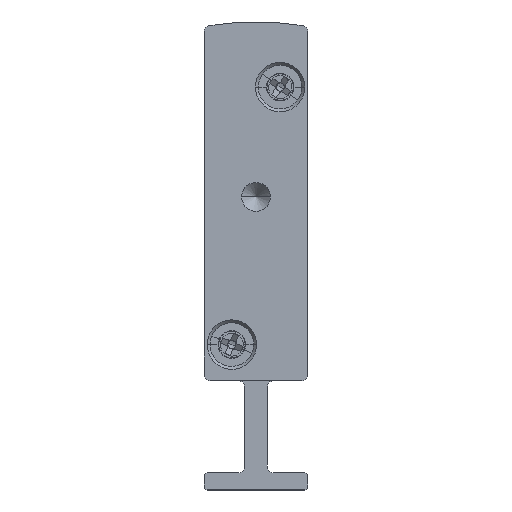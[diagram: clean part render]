
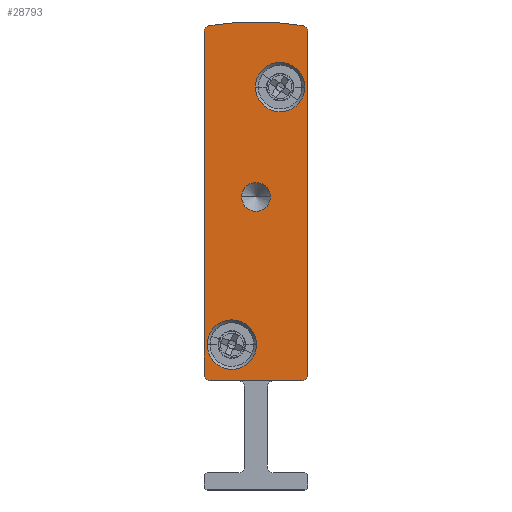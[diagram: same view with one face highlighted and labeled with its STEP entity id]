
A CAD part, front view. The second image highlights one B-rep face of the part: STEP entity #28793.
In plain terms, the highlighted planar face has unit normal (0, -1, 0).
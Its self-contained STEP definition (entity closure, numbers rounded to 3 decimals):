
#169 = EDGE_CURVE ( 'NONE', #326, #7620, #2238, .T. ) ;
#273 = CARTESIAN_POINT ( 'NONE',  ( 4.5, -2.5, 25.5 ) ) ;
#326 = VERTEX_POINT ( 'NONE', #19934 ) ;
#706 = EDGE_LOOP ( 'NONE', ( #27375, #29452 ) ) ;
#746 = CARTESIAN_POINT ( 'NONE',  ( 4.5, -2.5, 17.092 ) ) ;
#877 = DIRECTION ( 'NONE',  ( 0., -1., 0. ) ) ;
#1013 = ORIENTED_EDGE ( 'NONE', *, *, #18039, .F. ) ;
#1086 = EDGE_LOOP ( 'NONE', ( #25473, #30146 ) ) ;
#1340 = CARTESIAN_POINT ( 'NONE',  ( 8.5, -2.5, 9.5 ) ) ;
#2017 = CARTESIAN_POINT ( 'NONE',  ( 0.5, -2.5, 10. ) ) ;
#2091 = VERTEX_POINT ( 'NONE', #1340 ) ;
#2133 = PLANE ( 'NONE',  #21901 ) ;
#2232 = DIRECTION ( 'NONE',  ( -1., 0., 0. ) ) ;
#2238 = CIRCLE ( 'NONE', #2755, 0.5 ) ;
#2619 = VECTOR ( 'NONE', #10173, 1000. ) ;
#2755 = AXIS2_PLACEMENT_3D ( 'NONE', #16748, #11538, #14162 ) ;
#3008 = DIRECTION ( 'NONE',  ( -1., 0., 0. ) ) ;
#3598 = CARTESIAN_POINT ( 'NONE',  ( 3.25, -2.5, 25.5 ) ) ;
#3775 = VERTEX_POINT ( 'NONE', #11968 ) ;
#4089 = CARTESIAN_POINT ( 'NONE',  ( 4.45, -2.5, 35.05 ) ) ;
#4307 = FACE_BOUND ( 'NONE', #706, .T. ) ;
#5089 = DIRECTION ( 'NONE',  ( -1., 0., 0. ) ) ;
#5154 = CIRCLE ( 'NONE', #12048, 2.15 ) ;
#5263 = AXIS2_PLACEMENT_3D ( 'NONE', #12355, #32988, #17768 ) ;
#5355 = VECTOR ( 'NONE', #12631, 1000. ) ;
#6137 = EDGE_CURVE ( 'NONE', #8056, #28534, #13056, .T. ) ;
#6911 = VERTEX_POINT ( 'NONE', #9392 ) ;
#7114 = ORIENTED_EDGE ( 'NONE', *, *, #32986, .F. ) ;
#7130 = DIRECTION ( 'NONE',  ( 0., 1., 0. ) ) ;
#7203 = CARTESIAN_POINT ( 'NONE',  ( 9., -2.5, 39.902 ) ) ;
#7265 = DIRECTION ( 'NONE',  ( 1., 0., 0. ) ) ;
#7620 = VERTEX_POINT ( 'NONE', #21323 ) ;
#7820 = AXIS2_PLACEMENT_3D ( 'NONE', #273, #31162, #8213 ) ;
#7975 = CIRCLE ( 'NONE', #12233, 0.5 ) ;
#8056 = VERTEX_POINT ( 'NONE', #25357 ) ;
#8213 = DIRECTION ( 'NONE',  ( -1., 0., 0. ) ) ;
#8441 = CARTESIAN_POINT ( 'NONE',  ( 4.55, -2.5, 12.65 ) ) ;
#8467 = DIRECTION ( 'NONE',  ( 1., 0., 0. ) ) ;
#8832 = AXIS2_PLACEMENT_3D ( 'NONE', #32343, #26927, #9178 ) ;
#9178 = DIRECTION ( 'NONE',  ( -1., 0., 0. ) ) ;
#9392 = CARTESIAN_POINT ( 'NONE',  ( 0.25, -2.5, 12.65 ) ) ;
#9534 = LINE ( 'NONE', #17545, #17859 ) ;
#10173 = DIRECTION ( 'NONE',  ( 0., 0., -1. ) ) ;
#10502 = CARTESIAN_POINT ( 'NONE',  ( 8.5, -2.5, 39.902 ) ) ;
#10827 = CARTESIAN_POINT ( 'NONE',  ( 6.6, -2.5, 35.05 ) ) ;
#10889 = DIRECTION ( 'NONE',  ( 0., 0., 1. ) ) ;
#11128 = DIRECTION ( 'NONE',  ( 1., 0., 0. ) ) ;
#11538 = DIRECTION ( 'NONE',  ( 0., 1., 0. ) ) ;
#11937 = VERTEX_POINT ( 'NONE', #7203 ) ;
#11968 = CARTESIAN_POINT ( 'NONE',  ( 8.75, -2.5, 35.05 ) ) ;
#12048 = AXIS2_PLACEMENT_3D ( 'NONE', #10827, #877, #8467 ) ;
#12233 = AXIS2_PLACEMENT_3D ( 'NONE', #19253, #22197, #2232 ) ;
#12355 = CARTESIAN_POINT ( 'NONE',  ( 2.4, -2.5, 12.65 ) ) ;
#12526 = CARTESIAN_POINT ( 'NONE',  ( 0., -2.5, 10. ) ) ;
#12631 = DIRECTION ( 'NONE',  ( -1., 0., 0. ) ) ;
#13056 = CIRCLE ( 'NONE', #7820, 1.25 ) ;
#13561 = CARTESIAN_POINT ( 'NONE',  ( 8.592, -2.5, 40.393 ) ) ;
#14162 = DIRECTION ( 'NONE',  ( -1., 0., 0. ) ) ;
#14263 = DIRECTION ( 'NONE',  ( 0., -1., 0. ) ) ;
#14435 = EDGE_CURVE ( 'NONE', #3775, #30356, #29660, .T. ) ;
#14561 = AXIS2_PLACEMENT_3D ( 'NONE', #25149, #14263, #7265 ) ;
#14678 = VERTEX_POINT ( 'NONE', #23672 ) ;
#14720 = CIRCLE ( 'NONE', #8832, 1.25 ) ;
#15076 = ORIENTED_EDGE ( 'NONE', *, *, #18340, .F. ) ;
#15700 = EDGE_CURVE ( 'NONE', #11937, #28738, #22986, .T. ) ;
#16607 = EDGE_LOOP ( 'NONE', ( #28899, #1013, #7114, #15076, #28090, #19376, #22182, #19783 ) ) ;
#16748 = CARTESIAN_POINT ( 'NONE',  ( 0.5, -2.5, 39.902 ) ) ;
#16906 = AXIS2_PLACEMENT_3D ( 'NONE', #10502, #28727, #3008 ) ;
#17482 = FACE_BOUND ( 'NONE', #1086, .T. ) ;
#17489 = DIRECTION ( 'NONE',  ( 0., 1., 0. ) ) ;
#17530 = EDGE_CURVE ( 'NONE', #20773, #6911, #27926, .T. ) ;
#17545 = CARTESIAN_POINT ( 'NONE',  ( 0., -2.5, 39.902 ) ) ;
#17768 = DIRECTION ( 'NONE',  ( 1., 0., 0. ) ) ;
#17859 = VECTOR ( 'NONE', #10889, 1000. ) ;
#18035 = CARTESIAN_POINT ( 'NONE',  ( 0.5, -2.5, 9.5 ) ) ;
#18039 = EDGE_CURVE ( 'NONE', #28273, #326, #9534, .T. ) ;
#18314 = DIRECTION ( 'NONE',  ( 0., 1., 0. ) ) ;
#18340 = EDGE_CURVE ( 'NONE', #2091, #14678, #26592, .T. ) ;
#18646 = FACE_OUTER_BOUND ( 'NONE', #16607, .T. ) ;
#19043 = CARTESIAN_POINT ( 'NONE',  ( 9., -2.5, 10. ) ) ;
#19253 = CARTESIAN_POINT ( 'NONE',  ( 8.5, -2.5, 10. ) ) ;
#19376 = ORIENTED_EDGE ( 'NONE', *, *, #15700, .F. ) ;
#19783 = ORIENTED_EDGE ( 'NONE', *, *, #25387, .F. ) ;
#19934 = CARTESIAN_POINT ( 'NONE',  ( 0., -2.5, 39.902 ) ) ;
#20371 = CARTESIAN_POINT ( 'NONE',  ( 0.5, -2.5, 39.902 ) ) ;
#20773 = VERTEX_POINT ( 'NONE', #8441 ) ;
#21021 = DIRECTION ( 'NONE',  ( 0., -1., 0. ) ) ;
#21323 = CARTESIAN_POINT ( 'NONE',  ( 0.408, -2.5, 40.393 ) ) ;
#21633 = CIRCLE ( 'NONE', #16906, 0.5 ) ;
#21901 = AXIS2_PLACEMENT_3D ( 'NONE', #20371, #17489, #5089 ) ;
#21944 = CIRCLE ( 'NONE', #29849, 2.15 ) ;
#22182 = ORIENTED_EDGE ( 'NONE', *, *, #27312, .F. ) ;
#22197 = DIRECTION ( 'NONE',  ( 0., 1., 0. ) ) ;
#22986 = LINE ( 'NONE', #28030, #2619 ) ;
#23034 = AXIS2_PLACEMENT_3D ( 'NONE', #746, #18314, #25760 ) ;
#23672 = CARTESIAN_POINT ( 'NONE',  ( 0.5, -2.5, 9.5 ) ) ;
#23781 = AXIS2_PLACEMENT_3D ( 'NONE', #2017, #7130, #33111 ) ;
#24623 = ORIENTED_EDGE ( 'NONE', *, *, #33128, .F. ) ;
#25128 = FACE_BOUND ( 'NONE', #31153, .T. ) ;
#25149 = CARTESIAN_POINT ( 'NONE',  ( 6.6, -2.5, 35.05 ) ) ;
#25357 = CARTESIAN_POINT ( 'NONE',  ( 5.75, -2.5, 25.5 ) ) ;
#25387 = EDGE_CURVE ( 'NONE', #7620, #27816, #27488, .T. ) ;
#25473 = ORIENTED_EDGE ( 'NONE', *, *, #17530, .F. ) ;
#25760 = DIRECTION ( 'NONE',  ( -1., 0., 0. ) ) ;
#26592 = LINE ( 'NONE', #18035, #5355 ) ;
#26927 = DIRECTION ( 'NONE',  ( 0., 1., 0. ) ) ;
#27312 = EDGE_CURVE ( 'NONE', #27816, #11937, #21633, .T. ) ;
#27375 = ORIENTED_EDGE ( 'NONE', *, *, #32941, .T. ) ;
#27488 = CIRCLE ( 'NONE', #23034, 23.658 ) ;
#27763 = EDGE_CURVE ( 'NONE', #6911, #20773, #21944, .T. ) ;
#27816 = VERTEX_POINT ( 'NONE', #13561 ) ;
#27926 = CIRCLE ( 'NONE', #5263, 2.15 ) ;
#28030 = CARTESIAN_POINT ( 'NONE',  ( 9., -2.5, 39.902 ) ) ;
#28090 = ORIENTED_EDGE ( 'NONE', *, *, #32963, .F. ) ;
#28273 = VERTEX_POINT ( 'NONE', #12526 ) ;
#28534 = VERTEX_POINT ( 'NONE', #3598 ) ;
#28727 = DIRECTION ( 'NONE',  ( 0., 1., 0. ) ) ;
#28738 = VERTEX_POINT ( 'NONE', #19043 ) ;
#28793 = ADVANCED_FACE ( 'NONE', ( #25128, #17482, #18646, #4307 ), #2133, .F. ) ;
#28899 = ORIENTED_EDGE ( 'NONE', *, *, #169, .F. ) ;
#29026 = CARTESIAN_POINT ( 'NONE',  ( 2.4, -2.5, 12.65 ) ) ;
#29452 = ORIENTED_EDGE ( 'NONE', *, *, #6137, .T. ) ;
#29660 = CIRCLE ( 'NONE', #14561, 2.15 ) ;
#29849 = AXIS2_PLACEMENT_3D ( 'NONE', #29026, #21021, #11128 ) ;
#29921 = ORIENTED_EDGE ( 'NONE', *, *, #14435, .F. ) ;
#30001 = CIRCLE ( 'NONE', #23781, 0.5 ) ;
#30146 = ORIENTED_EDGE ( 'NONE', *, *, #27763, .F. ) ;
#30356 = VERTEX_POINT ( 'NONE', #4089 ) ;
#31153 = EDGE_LOOP ( 'NONE', ( #29921, #24623 ) ) ;
#31162 = DIRECTION ( 'NONE',  ( 0., 1., 0. ) ) ;
#32343 = CARTESIAN_POINT ( 'NONE',  ( 4.5, -2.5, 25.5 ) ) ;
#32941 = EDGE_CURVE ( 'NONE', #28534, #8056, #14720, .T. ) ;
#32963 = EDGE_CURVE ( 'NONE', #28738, #2091, #7975, .T. ) ;
#32986 = EDGE_CURVE ( 'NONE', #14678, #28273, #30001, .T. ) ;
#32988 = DIRECTION ( 'NONE',  ( 0., -1., 0. ) ) ;
#33111 = DIRECTION ( 'NONE',  ( -1., 0., 0. ) ) ;
#33128 = EDGE_CURVE ( 'NONE', #30356, #3775, #5154, .T. ) ;
